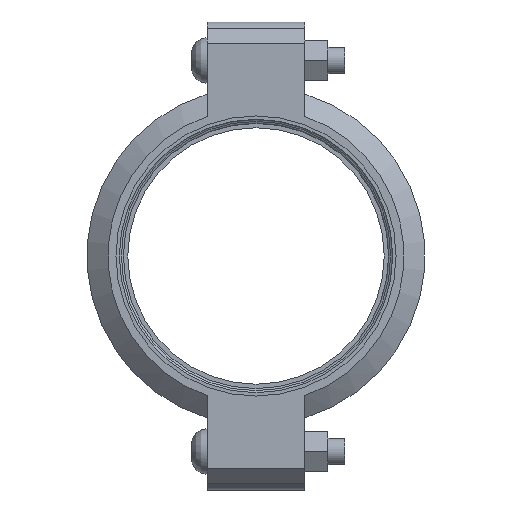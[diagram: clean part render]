
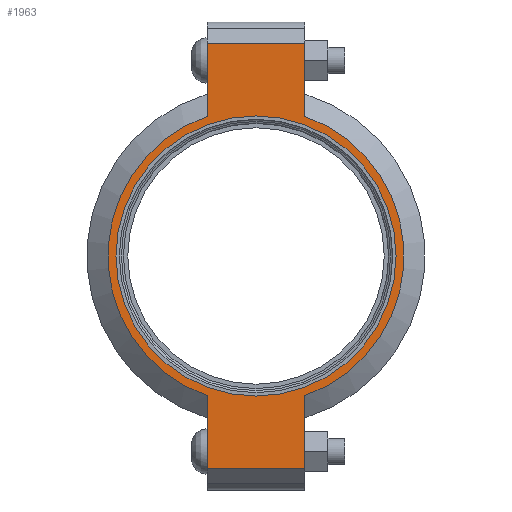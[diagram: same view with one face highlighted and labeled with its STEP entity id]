
A CAD part, left-side view. The second image highlights one B-rep face of the part: STEP entity #1963.
In plain terms, the highlighted planar face has unit normal (-1, 0, 0) as drawn and (0, 0, 1) by its records, which use the part's own axes.
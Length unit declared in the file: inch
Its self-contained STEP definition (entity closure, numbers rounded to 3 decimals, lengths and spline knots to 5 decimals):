
#152=LINE('',#3479,#249);
#160=LINE('',#3515,#257);
#167=LINE('',#3536,#264);
#176=LINE('',#3568,#273);
#177=LINE('',#3572,#274);
#178=LINE('',#3574,#275);
#249=VECTOR('',#2835,0.3937);
#257=VECTOR('',#2851,0.3937);
#264=VECTOR('',#2870,0.3937);
#273=VECTOR('',#2895,0.3937);
#274=VECTOR('',#2900,0.3937);
#275=VECTOR('',#2901,0.3937);
#331=FACE_BOUND('',#581,.T.);
#375=PLANE('',#2302);
#463=FACE_OUTER_BOUND('',#580,.T.);
#580=EDGE_LOOP('',(#1684,#1685,#1686,#1687,#1688,#1689,#1690,#1691));
#581=EDGE_LOOP('',(#1692));
#753=CIRCLE('',#2303,3.5);
#754=CIRCLE('',#2304,3.5);
#755=CIRCLE('',#2305,3.3125);
#917=VERTEX_POINT('',#3476);
#918=VERTEX_POINT('',#3478);
#929=VERTEX_POINT('',#3510);
#930=VERTEX_POINT('',#3514);
#937=VERTEX_POINT('',#3533);
#938=VERTEX_POINT('',#3535);
#948=VERTEX_POINT('',#3571);
#949=VERTEX_POINT('',#3573);
#950=VERTEX_POINT('',#3576);
#1162=EDGE_CURVE('',#918,#917,#152,.T.);
#1176=EDGE_CURVE('',#930,#929,#160,.T.);
#1186=EDGE_CURVE('',#938,#937,#167,.T.);
#1201=EDGE_CURVE('',#930,#917,#176,.T.);
#1202=EDGE_CURVE('',#929,#938,#753,.T.);
#1203=EDGE_CURVE('',#948,#937,#177,.T.);
#1204=EDGE_CURVE('',#948,#949,#178,.T.);
#1205=EDGE_CURVE('',#949,#918,#754,.T.);
#1206=EDGE_CURVE('',#950,#950,#755,.T.);
#1684=ORIENTED_EDGE('',*,*,#1201,.F.);
#1685=ORIENTED_EDGE('',*,*,#1176,.T.);
#1686=ORIENTED_EDGE('',*,*,#1202,.T.);
#1687=ORIENTED_EDGE('',*,*,#1186,.T.);
#1688=ORIENTED_EDGE('',*,*,#1203,.F.);
#1689=ORIENTED_EDGE('',*,*,#1204,.T.);
#1690=ORIENTED_EDGE('',*,*,#1205,.T.);
#1691=ORIENTED_EDGE('',*,*,#1162,.T.);
#1692=ORIENTED_EDGE('',*,*,#1206,.T.);
#1963=ADVANCED_FACE('',(#463,#331),#375,.T.);
#2302=AXIS2_PLACEMENT_3D('',#3569,#2896,#2897);
#2303=AXIS2_PLACEMENT_3D('',#3570,#2898,#2899);
#2304=AXIS2_PLACEMENT_3D('',#3575,#2902,#2903);
#2305=AXIS2_PLACEMENT_3D('',#3577,#2904,#2905);
#2835=DIRECTION('',(1.,0.,0.));
#2851=DIRECTION('',(-1.,0.,0.));
#2870=DIRECTION('',(-1.,0.,0.));
#2895=DIRECTION('',(0.,-1.,0.));
#2896=DIRECTION('center_axis',(0.,0.,1.));
#2897=DIRECTION('ref_axis',(-1.,0.,0.));
#2898=DIRECTION('center_axis',(0.,0.,1.));
#2899=DIRECTION('ref_axis',(1.,0.,0.));
#2900=DIRECTION('',(0.,1.,0.));
#2901=DIRECTION('',(1.,0.,0.));
#2902=DIRECTION('center_axis',(0.,0.,1.));
#2903=DIRECTION('ref_axis',(1.,0.,0.));
#2904=DIRECTION('center_axis',(0.,0.,-1.));
#2905=DIRECTION('ref_axis',(1.,0.,0.));
#3476=CARTESIAN_POINT('',(5.035,-1.156,1.065));
#3478=CARTESIAN_POINT('',(3.30358,-1.156,1.065));
#3479=CARTESIAN_POINT('',(5.535,-1.156,1.065));
#3510=CARTESIAN_POINT('',(3.30358,1.156,1.065));
#3514=CARTESIAN_POINT('',(5.035,1.156,1.065));
#3515=CARTESIAN_POINT('',(-5.535,1.156,1.065));
#3533=CARTESIAN_POINT('',(-5.035,1.156,1.065));
#3535=CARTESIAN_POINT('',(-3.30358,1.156,1.065));
#3536=CARTESIAN_POINT('',(-5.535,1.156,1.065));
#3568=CARTESIAN_POINT('',(5.035,-0.578,1.065));
#3569=CARTESIAN_POINT('Origin',(0.,0.,
1.065));
#3570=CARTESIAN_POINT('Origin',(0.,0.,1.065));
#3571=CARTESIAN_POINT('',(-5.035,-1.156,1.065));
#3572=CARTESIAN_POINT('',(-5.035,0.578,1.065));
#3573=CARTESIAN_POINT('',(-3.30358,-1.156,1.065));
#3574=CARTESIAN_POINT('',(5.535,-1.156,1.065));
#3575=CARTESIAN_POINT('Origin',(0.,0.,1.065));
#3576=CARTESIAN_POINT('',(-3.3125,0.,1.065));
#3577=CARTESIAN_POINT('Origin',(0.,0.,1.065));
